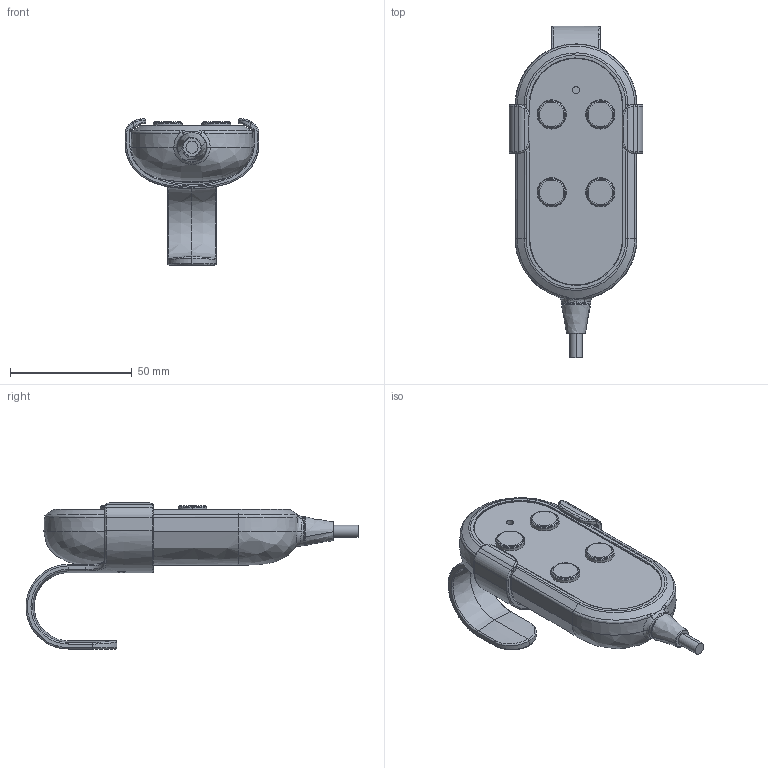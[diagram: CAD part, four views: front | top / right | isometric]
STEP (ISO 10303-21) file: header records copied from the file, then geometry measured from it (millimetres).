
FILE_DESCRIPTION (( 'STEP AP203' ), '1' );
FILE_NAME ('TH6.STEP', '2014-01-16T02:59:44', ( 'stanley' ), ( '' ), 'SwSTEP 2.0', 'SolidWorks 2010', '' );
FILE_SCHEMA (( 'CONFIG_CONTROL_DESIGN' ));
Length unit declared in the file: millimetre
Products named in the file (1): TH6
Bounding box: 55 x 136.37 x 59.97 mm (x, y, z)
Volume: 103811.8 mm3; surface area: 22640.3 mm2
Topology: 2 solids, 2 shells, 282 faces, 647 edges, 370 vertices
Faces by surface type: bspline 116, cylinder 73, plane 42, torus 41, cone 10
Entity records: 31347 total; most frequent: CARTESIAN_POINT 25689, ORIENTED_EDGE 1278, DIRECTION 966, EDGE_CURVE 639, AXIS2_PLACEMENT_3D 404, VERTEX_POINT 370, EDGE_LOOP 293, FACE_OUTER_BOUND 282
